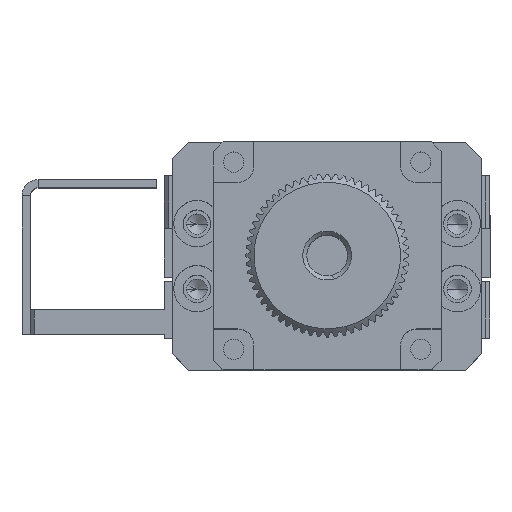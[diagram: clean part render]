
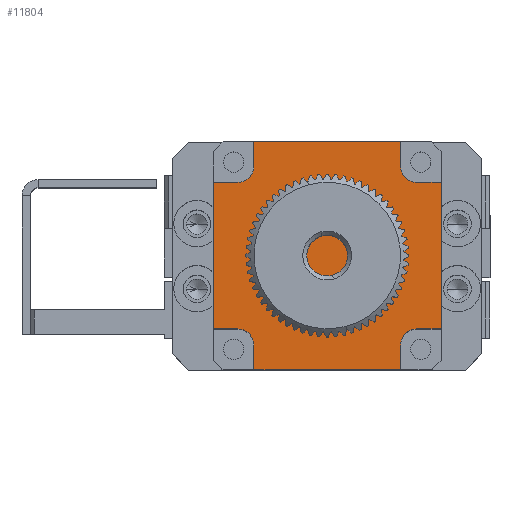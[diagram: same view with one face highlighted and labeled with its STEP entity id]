
A CAD part, top view. The second image highlights one B-rep face of the part: STEP entity #11804.
In plain terms, the highlighted planar face has unit normal (0, 0, 1).
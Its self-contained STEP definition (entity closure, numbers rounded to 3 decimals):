
#83 = VERTEX_POINT ( 'NONE', #25933 ) ;
#237 = CARTESIAN_POINT ( 'NONE',  ( 18.494, 18.672, 105. ) ) ;
#276 = DIRECTION ( 'NONE',  ( 0., -1., 0. ) ) ;
#367 = DIRECTION ( 'NONE',  ( 1., 0., 0. ) ) ;
#439 = CARTESIAN_POINT ( 'NONE',  ( -6.506, -4.328, 105. ) ) ;
#501 = VECTOR ( 'NONE', #7133, 1000. ) ;
#611 = CARTESIAN_POINT ( 'NONE',  ( 18.494, 18.672, 105. ) ) ;
#850 = EDGE_CURVE ( 'NONE', #9308, #10366, #12284, .T. ) ;
#1034 = VECTOR ( 'NONE', #19326, 1000. ) ;
#1107 = VECTOR ( 'NONE', #276, 1000. ) ;
#1326 = CARTESIAN_POINT ( 'NONE',  ( 13.494, 18.672, 105. ) ) ;
#1437 = VECTOR ( 'NONE', #9108, 1000. ) ;
#1441 = LINE ( 'NONE', #20381, #24998 ) ;
#2116 = VECTOR ( 'NONE', #4382, 1000. ) ;
#2179 = ORIENTED_EDGE ( 'NONE', *, *, #20136, .T. ) ;
#2198 = ORIENTED_EDGE ( 'NONE', *, *, #17065, .T. ) ;
#2226 = DIRECTION ( 'NONE',  ( -1., 0., 0. ) ) ;
#2394 = AXIS2_PLACEMENT_3D ( 'NONE', #28877, #4141, #11124 ) ;
#3054 = LINE ( 'NONE', #20902, #3377 ) ;
#3061 = AXIS2_PLACEMENT_3D ( 'NONE', #8876, #18065, #26933 ) ;
#3169 = DIRECTION ( 'NONE',  ( 0., 0., -1. ) ) ;
#3377 = VECTOR ( 'NONE', #25532, 1000. ) ;
#3477 = CARTESIAN_POINT ( 'NONE',  ( -9.506, -4.328, 105. ) ) ;
#3671 = CARTESIAN_POINT ( 'NONE',  ( 15.494, 13.672, 105. ) ) ;
#4141 = DIRECTION ( 'NONE',  ( 0., 0., -1. ) ) ;
#4382 = DIRECTION ( 'NONE',  ( 0., 1., 0. ) ) ;
#4385 = ORIENTED_EDGE ( 'NONE', *, *, #10839, .T. ) ;
#4489 = CARTESIAN_POINT ( 'NONE',  ( 13.494, 18.672, 105. ) ) ;
#4600 = CARTESIAN_POINT ( 'NONE',  ( -4.506, 18.672, 105. ) ) ;
#4680 = ORIENTED_EDGE ( 'NONE', *, *, #13576, .T. ) ;
#4689 = EDGE_CURVE ( 'NONE', #20109, #4723, #12989, .T. ) ;
#4723 = VERTEX_POINT ( 'NONE', #18378 ) ;
#5083 = DIRECTION ( 'NONE',  ( 1., 0., 0. ) ) ;
#5148 = VERTEX_POINT ( 'NONE', #22115 ) ;
#5499 = EDGE_LOOP ( 'NONE', ( #2198, #16335, #4680, #5539, #25020, #22620, #13222, #2179, #20931, #10735, #22276, #4385, #13820, #6019, #8325, #29128 ) ) ;
#5539 = ORIENTED_EDGE ( 'NONE', *, *, #15971, .T. ) ;
#5786 = CARTESIAN_POINT ( 'NONE',  ( 13.494, -9.328, 105. ) ) ;
#5931 = VECTOR ( 'NONE', #5083, 1000. ) ;
#6019 = ORIENTED_EDGE ( 'NONE', *, *, #20051, .T. ) ;
#6709 = EDGE_CURVE ( 'NONE', #10366, #83, #27672, .T. ) ;
#6980 = EDGE_CURVE ( 'NONE', #14934, #23266, #3054, .T. ) ;
#7104 = LINE ( 'NONE', #27184, #1107 ) ;
#7133 = DIRECTION ( 'NONE',  ( 0., 1., 0. ) ) ;
#8005 = AXIS2_PLACEMENT_3D ( 'NONE', #9215, #24909, #11477 ) ;
#8134 = VERTEX_POINT ( 'NONE', #28854 ) ;
#8325 = ORIENTED_EDGE ( 'NONE', *, *, #850, .T. ) ;
#8577 = CARTESIAN_POINT ( 'NONE',  ( 13.494, 18.672, 105. ) ) ;
#8876 = CARTESIAN_POINT ( 'NONE',  ( -6.506, 15.672, 105. ) ) ;
#9108 = DIRECTION ( 'NONE',  ( 1., 0., 0. ) ) ;
#9182 = VECTOR ( 'NONE', #26455, 1000. ) ;
#9215 = CARTESIAN_POINT ( 'NONE',  ( 18.494, 18.672, 105. ) ) ;
#9308 = VERTEX_POINT ( 'NONE', #3477 ) ;
#9479 = LINE ( 'NONE', #15006, #1034 ) ;
#10366 = VERTEX_POINT ( 'NONE', #439 ) ;
#10400 = CARTESIAN_POINT ( 'NONE',  ( 18.494, 13.672, 105. ) ) ;
#10546 = LINE ( 'NONE', #611, #16861 ) ;
#10735 = ORIENTED_EDGE ( 'NONE', *, *, #13090, .T. ) ;
#10839 = EDGE_CURVE ( 'NONE', #4723, #12009, #20504, .T. ) ;
#10976 = LINE ( 'NONE', #19211, #22176 ) ;
#11124 = DIRECTION ( 'NONE',  ( 1., 0., 0. ) ) ;
#11176 = PLANE ( 'NONE',  #8005 ) ;
#11477 = DIRECTION ( 'NONE',  ( 1., 0., 0. ) ) ;
#11804 = ADVANCED_FACE ( 'NONE', ( #19734 ), #11176, .T. ) ;
#12009 = VERTEX_POINT ( 'NONE', #25777 ) ;
#12284 = LINE ( 'NONE', #25198, #5931 ) ;
#12721 = EDGE_CURVE ( 'NONE', #8134, #15359, #16186, .T. ) ;
#12989 = LINE ( 'NONE', #18272, #27069 ) ;
#13090 = EDGE_CURVE ( 'NONE', #17660, #20109, #10546, .T. ) ;
#13222 = ORIENTED_EDGE ( 'NONE', *, *, #20025, .T. ) ;
#13576 = EDGE_CURVE ( 'NONE', #15359, #5148, #27053, .T. ) ;
#13813 = DIRECTION ( 'NONE',  ( 0., 0., -1. ) ) ;
#13820 = ORIENTED_EDGE ( 'NONE', *, *, #28848, .T. ) ;
#14467 = CARTESIAN_POINT ( 'NONE',  ( -9.506, 13.672, 105. ) ) ;
#14934 = VERTEX_POINT ( 'NONE', #19728 ) ;
#15006 = CARTESIAN_POINT ( 'NONE',  ( 18.494, 13.672, 105. ) ) ;
#15156 = CARTESIAN_POINT ( 'NONE',  ( 13.494, 15.672, 105. ) ) ;
#15303 = VERTEX_POINT ( 'NONE', #10400 ) ;
#15359 = VERTEX_POINT ( 'NONE', #5786 ) ;
#15971 = EDGE_CURVE ( 'NONE', #5148, #14934, #21682, .T. ) ;
#16100 = DIRECTION ( 'NONE',  ( 0., -1., 0. ) ) ;
#16186 = LINE ( 'NONE', #18016, #1437 ) ;
#16335 = ORIENTED_EDGE ( 'NONE', *, *, #12721, .T. ) ;
#16861 = VECTOR ( 'NONE', #27628, 1000. ) ;
#17065 = EDGE_CURVE ( 'NONE', #83, #8134, #10976, .T. ) ;
#17660 = VERTEX_POINT ( 'NONE', #8577 ) ;
#18016 = CARTESIAN_POINT ( 'NONE',  ( 18.494, -9.328, 105. ) ) ;
#18065 = DIRECTION ( 'NONE',  ( 0., 0., -1. ) ) ;
#18272 = CARTESIAN_POINT ( 'NONE',  ( -4.506, 18.672, 105. ) ) ;
#18378 = CARTESIAN_POINT ( 'NONE',  ( -4.506, 15.672, 105. ) ) ;
#18695 = DIRECTION ( 'NONE',  ( 1., 0., 0. ) ) ;
#18983 = CIRCLE ( 'NONE', #21517, 2. ) ;
#19211 = CARTESIAN_POINT ( 'NONE',  ( -4.506, 18.672, 105. ) ) ;
#19326 = DIRECTION ( 'NONE',  ( -1., 0., 0. ) ) ;
#19728 = CARTESIAN_POINT ( 'NONE',  ( 15.494, -4.328, 105. ) ) ;
#19734 = FACE_OUTER_BOUND ( 'NONE', #5499, .T. ) ;
#19746 = AXIS2_PLACEMENT_3D ( 'NONE', #23199, #3169, #18695 ) ;
#20025 = EDGE_CURVE ( 'NONE', #15303, #24932, #1441, .T. ) ;
#20051 = EDGE_CURVE ( 'NONE', #21480, #9308, #7104, .T. ) ;
#20109 = VERTEX_POINT ( 'NONE', #4600 ) ;
#20136 = EDGE_CURVE ( 'NONE', #24932, #27450, #18983, .T. ) ;
#20381 = CARTESIAN_POINT ( 'NONE',  ( 18.494, 13.672, 105. ) ) ;
#20504 = CIRCLE ( 'NONE', #3061, 2. ) ;
#20902 = CARTESIAN_POINT ( 'NONE',  ( 18.494, -4.328, 105. ) ) ;
#20931 = ORIENTED_EDGE ( 'NONE', *, *, #28115, .T. ) ;
#21157 = CARTESIAN_POINT ( 'NONE',  ( 18.494, -4.328, 105. ) ) ;
#21480 = VERTEX_POINT ( 'NONE', #14467 ) ;
#21517 = AXIS2_PLACEMENT_3D ( 'NONE', #25106, #13813, #367 ) ;
#21682 = CIRCLE ( 'NONE', #19746, 2. ) ;
#22115 = CARTESIAN_POINT ( 'NONE',  ( 13.494, -6.328, 105. ) ) ;
#22176 = VECTOR ( 'NONE', #23723, 1000. ) ;
#22276 = ORIENTED_EDGE ( 'NONE', *, *, #4689, .T. ) ;
#22620 = ORIENTED_EDGE ( 'NONE', *, *, #25151, .T. ) ;
#23199 = CARTESIAN_POINT ( 'NONE',  ( 15.494, -6.328, 105. ) ) ;
#23266 = VERTEX_POINT ( 'NONE', #21157 ) ;
#23723 = DIRECTION ( 'NONE',  ( 0., -1., 0. ) ) ;
#24909 = DIRECTION ( 'NONE',  ( 0., 0., 1. ) ) ;
#24932 = VERTEX_POINT ( 'NONE', #3671 ) ;
#24952 = LINE ( 'NONE', #4489, #2116 ) ;
#24998 = VECTOR ( 'NONE', #2226, 1000. ) ;
#25020 = ORIENTED_EDGE ( 'NONE', *, *, #6980, .T. ) ;
#25106 = CARTESIAN_POINT ( 'NONE',  ( 15.494, 15.672, 105. ) ) ;
#25151 = EDGE_CURVE ( 'NONE', #23266, #15303, #27227, .T. ) ;
#25198 = CARTESIAN_POINT ( 'NONE',  ( 18.494, -4.328, 105. ) ) ;
#25532 = DIRECTION ( 'NONE',  ( 1., 0., 0. ) ) ;
#25777 = CARTESIAN_POINT ( 'NONE',  ( -6.506, 13.672, 105. ) ) ;
#25933 = CARTESIAN_POINT ( 'NONE',  ( -4.506, -6.328, 105. ) ) ;
#26455 = DIRECTION ( 'NONE',  ( 0., 1., 0. ) ) ;
#26933 = DIRECTION ( 'NONE',  ( 1., 0., 0. ) ) ;
#27053 = LINE ( 'NONE', #1326, #9182 ) ;
#27069 = VECTOR ( 'NONE', #16100, 1000. ) ;
#27184 = CARTESIAN_POINT ( 'NONE',  ( -9.506, 18.672, 105. ) ) ;
#27227 = LINE ( 'NONE', #237, #501 ) ;
#27450 = VERTEX_POINT ( 'NONE', #15156 ) ;
#27628 = DIRECTION ( 'NONE',  ( -1., 0., 0. ) ) ;
#27672 = CIRCLE ( 'NONE', #2394, 2. ) ;
#28115 = EDGE_CURVE ( 'NONE', #27450, #17660, #24952, .T. ) ;
#28848 = EDGE_CURVE ( 'NONE', #12009, #21480, #9479, .T. ) ;
#28854 = CARTESIAN_POINT ( 'NONE',  ( -4.506, -9.328, 105. ) ) ;
#28877 = CARTESIAN_POINT ( 'NONE',  ( -6.506, -6.328, 105. ) ) ;
#29128 = ORIENTED_EDGE ( 'NONE', *, *, #6709, .T. ) ;
